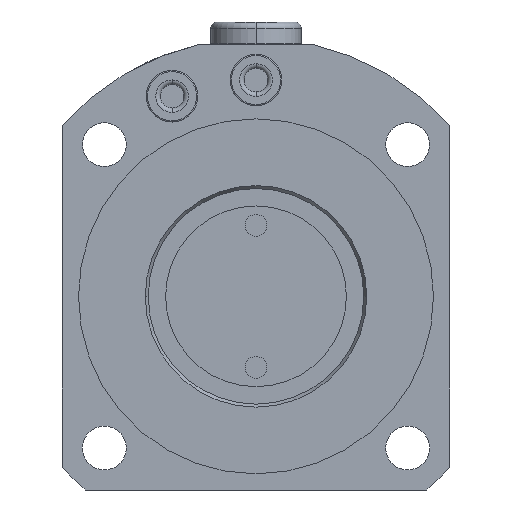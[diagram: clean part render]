
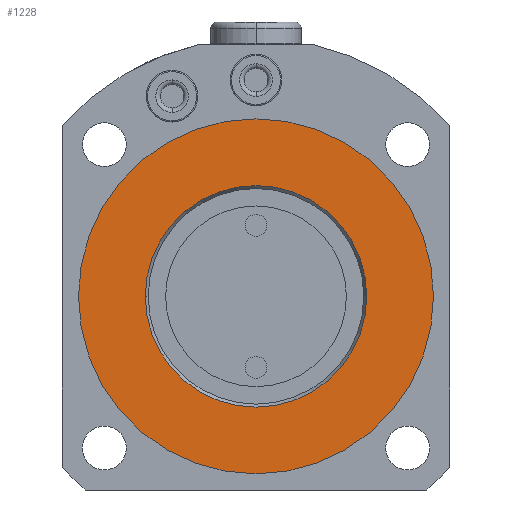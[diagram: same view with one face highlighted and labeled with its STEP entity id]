
A CAD part, front view. The second image highlights one B-rep face of the part: STEP entity #1228.
In plain terms, the highlighted planar face has unit normal (0, -1, 0).
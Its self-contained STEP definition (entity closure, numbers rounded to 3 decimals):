
#980=PLANE('',#4234);
#1058=FACE_BOUND('',#1715,.T.);
#1059=FACE_BOUND('',#1716,.T.);
#1228=ADVANCED_FACE('',(#1058,#1059),#980,.T.);
#1715=EDGE_LOOP('',(#2512,#2513));
#1716=EDGE_LOOP('',(#2514,#2515));
#2512=ORIENTED_EDGE('',*,*,#3502,.T.);
#2513=ORIENTED_EDGE('',*,*,#3599,.T.);
#2514=ORIENTED_EDGE('',*,*,#3496,.F.);
#2515=ORIENTED_EDGE('',*,*,#3600,.F.);
#3210=VERTEX_POINT('',#5924);
#3211=VERTEX_POINT('',#5925);
#3216=VERTEX_POINT('',#5936);
#3217=VERTEX_POINT('',#5938);
#3496=EDGE_CURVE('',#3210,#3211,#3885,.T.);
#3502=EDGE_CURVE('',#3217,#3216,#3888,.T.);
#3599=EDGE_CURVE('',#3216,#3217,#3937,.T.);
#3600=EDGE_CURVE('',#3211,#3210,#3938,.T.);
#3885=CIRCLE('',#4146,27.5);
#3888=CIRCLE('',#4150,17.162);
#3937=CIRCLE('',#4231,17.162);
#3938=CIRCLE('',#4233,27.5);
#4146=AXIS2_PLACEMENT_3D('',#5923,#4702,#4703);
#4150=AXIS2_PLACEMENT_3D('',#5937,#4713,#4714);
#4231=AXIS2_PLACEMENT_3D('',#6239,#4908,#4909);
#4233=AXIS2_PLACEMENT_3D('',#6241,#4912,#4913);
#4234=AXIS2_PLACEMENT_3D('',#6242,#4914,#4915);
#4702=DIRECTION('',(0.,1.,0.));
#4703=DIRECTION('',(-1.,0.,0.));
#4713=DIRECTION('',(0.,1.,0.));
#4714=DIRECTION('',(-1.,0.,0.));
#4908=DIRECTION('',(0.,1.,0.));
#4909=DIRECTION('',(-1.,0.,0.));
#4912=DIRECTION('',(0.,1.,0.));
#4913=DIRECTION('',(-1.,0.,0.));
#4914=DIRECTION('',(0.,-1.,0.));
#4915=DIRECTION('',(-1.,0.,0.));
#5923=CARTESIAN_POINT('',(0.,-70.,0.));
#5924=CARTESIAN_POINT('',(-27.5,-70.,0.));
#5925=CARTESIAN_POINT('',(27.5,-70.,0.));
#5936=CARTESIAN_POINT('',(-17.162,-70.,0.));
#5937=CARTESIAN_POINT('',(0.,-70.,0.));
#5938=CARTESIAN_POINT('',(17.162,-70.,0.));
#6239=CARTESIAN_POINT('',(0.,-70.,0.));
#6241=CARTESIAN_POINT('',(0.,-70.,0.));
#6242=CARTESIAN_POINT('',(-17.162,-70.,0.));
